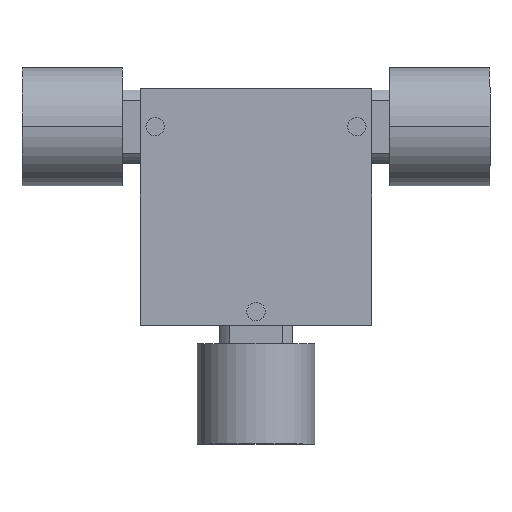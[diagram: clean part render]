
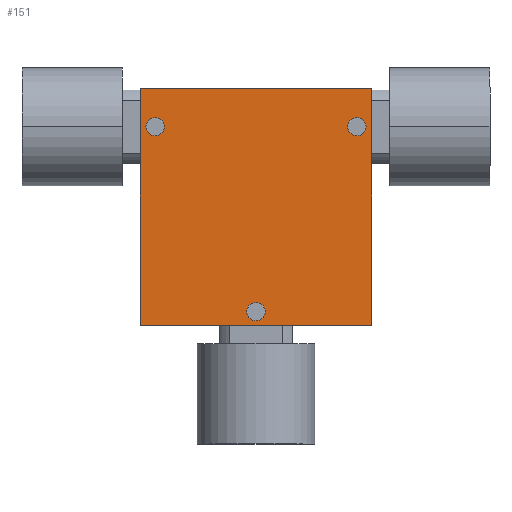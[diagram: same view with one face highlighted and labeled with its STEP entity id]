
A CAD part, top view. The second image highlights one B-rep face of the part: STEP entity #151.
In plain terms, the highlighted planar face has unit normal (0, 0, 1) as drawn and (0, 0, -1) by its records, which use the part's own axes.
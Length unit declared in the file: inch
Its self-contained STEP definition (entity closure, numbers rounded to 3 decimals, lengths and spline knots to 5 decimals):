
#16 = VERTEX_POINT ( 'NONE', #514 ) ;
#17 = VERTEX_POINT ( 'NONE', #1005 ) ;
#21 = ORIENTED_EDGE ( 'NONE', *, *, #179, .T. ) ;
#57 = DIRECTION ( 'NONE',  ( 1., 0., 0. ) ) ;
#65 = ORIENTED_EDGE ( 'NONE', *, *, #1913, .F. ) ;
#79 = ORIENTED_EDGE ( 'NONE', *, *, #643, .T. ) ;
#85 = DIRECTION ( 'NONE',  ( -1., 0., 0. ) ) ;
#104 = CIRCLE ( 'NONE', #1496, 0.0625 ) ;
#105 = DIRECTION ( 'NONE',  ( 1., 0., 0. ) ) ;
#112 = CARTESIAN_POINT ( 'NONE',  ( -0.79, -0.81, -0.365 ) ) ;
#144 = VERTEX_POINT ( 'NONE', #1074 ) ;
#149 = VERTEX_POINT ( 'NONE', #112 ) ;
#151 = ADVANCED_FACE ( 'NONE', ( #1302, #265, #463, #1322 ), #411, .F. ) ;
#178 = VECTOR ( 'NONE', #847, 39.37008 ) ;
#179 = EDGE_CURVE ( 'NONE', #16, #929, #744, .T. ) ;
#234 = AXIS2_PLACEMENT_3D ( 'NONE', #1637, #864, #856 ) ;
#237 = VERTEX_POINT ( 'NONE', #1549 ) ;
#262 = DIRECTION ( 'NONE',  ( 1., 0., 0. ) ) ;
#265 = FACE_BOUND ( 'NONE', #533, .T. ) ;
#347 = EDGE_CURVE ( 'NONE', #149, #17, #945, .T. ) ;
#351 = ORIENTED_EDGE ( 'NONE', *, *, #2015, .T. ) ;
#379 = LINE ( 'NONE', #1786, #1692 ) ;
#411 = PLANE ( 'NONE',  #901 ) ;
#423 = CARTESIAN_POINT ( 'NONE',  ( -0.69, 0.55, -0.365 ) ) ;
#429 = LINE ( 'NONE', #722, #1355 ) ;
#463 = FACE_BOUND ( 'NONE', #1219, .T. ) ;
#470 = LINE ( 'NONE', #1776, #178 ) ;
#514 = CARTESIAN_POINT ( 'NONE',  ( -0.6275, 0.55, -0.365 ) ) ;
#525 = AXIS2_PLACEMENT_3D ( 'NONE', #1035, #747, #105 ) ;
#533 = EDGE_LOOP ( 'NONE', ( #625, #79 ) ) ;
#538 = CARTESIAN_POINT ( 'NONE',  ( 0.69, 0.55, -0.365 ) ) ;
#575 = EDGE_CURVE ( 'NONE', #237, #1166, #1967, .T. ) ;
#625 = ORIENTED_EDGE ( 'NONE', *, *, #1145, .T. ) ;
#643 = EDGE_CURVE ( 'NONE', #1598, #144, #2033, .T. ) ;
#695 = DIRECTION ( 'NONE',  ( 0., 0., 1. ) ) ;
#722 = CARTESIAN_POINT ( 'NONE',  ( -0.79, 0.81, -0.365 ) ) ;
#744 = CIRCLE ( 'NONE', #1631, 0.0625 ) ;
#747 = DIRECTION ( 'NONE',  ( 0., 0., 1. ) ) ;
#758 = DIRECTION ( 'NONE',  ( 1., 0., 0. ) ) ;
#778 = VERTEX_POINT ( 'NONE', #967 ) ;
#798 = CARTESIAN_POINT ( 'NONE',  ( -0.0625, -0.715, -0.365 ) ) ;
#817 = ORIENTED_EDGE ( 'NONE', *, *, #347, .F. ) ;
#841 = ORIENTED_EDGE ( 'NONE', *, *, #2050, .F. ) ;
#847 = DIRECTION ( 'NONE',  ( 0., 1., 0. ) ) ;
#856 = DIRECTION ( 'NONE',  ( 1., 0., 0. ) ) ;
#864 = DIRECTION ( 'NONE',  ( 0., 0., 1. ) ) ;
#869 = CIRCLE ( 'NONE', #1403, 0.0625 ) ;
#901 = AXIS2_PLACEMENT_3D ( 'NONE', #1197, #903, #1220 ) ;
#903 = DIRECTION ( 'NONE',  ( 0., 0., 1. ) ) ;
#921 = CIRCLE ( 'NONE', #525, 0.0625 ) ;
#929 = VERTEX_POINT ( 'NONE', #1576 ) ;
#945 = LINE ( 'NONE', #1319, #1254 ) ;
#967 = CARTESIAN_POINT ( 'NONE',  ( -0.79, 0.81, -0.365 ) ) ;
#1005 = CARTESIAN_POINT ( 'NONE',  ( 0.79, -0.81, -0.365 ) ) ;
#1007 = EDGE_CURVE ( 'NONE', #1166, #237, #869, .T. ) ;
#1016 = DIRECTION ( 'NONE',  ( 1., 0., 0. ) ) ;
#1030 = AXIS2_PLACEMENT_3D ( 'NONE', #1423, #695, #57 ) ;
#1035 = CARTESIAN_POINT ( 'NONE',  ( 0., -0.715, -0.365 ) ) ;
#1074 = CARTESIAN_POINT ( 'NONE',  ( 0.0625, -0.715, -0.365 ) ) ;
#1109 = ORIENTED_EDGE ( 'NONE', *, *, #575, .T. ) ;
#1145 = EDGE_CURVE ( 'NONE', #144, #1598, #921, .T. ) ;
#1148 = EDGE_LOOP ( 'NONE', ( #1109, #1643 ) ) ;
#1166 = VERTEX_POINT ( 'NONE', #1995 ) ;
#1169 = ORIENTED_EDGE ( 'NONE', *, *, #1777, .F. ) ;
#1197 = CARTESIAN_POINT ( 'NONE',  ( 0., 0., -0.365 ) ) ;
#1219 = EDGE_LOOP ( 'NONE', ( #21, #351 ) ) ;
#1220 = DIRECTION ( 'NONE',  ( 1., 0., 0. ) ) ;
#1254 = VECTOR ( 'NONE', #1338, 39.37008 ) ;
#1297 = EDGE_LOOP ( 'NONE', ( #1169, #817, #65, #841 ) ) ;
#1302 = FACE_BOUND ( 'NONE', #1148, .T. ) ;
#1319 = CARTESIAN_POINT ( 'NONE',  ( -0.79, -0.81, -0.365 ) ) ;
#1322 = FACE_OUTER_BOUND ( 'NONE', #1297, .T. ) ;
#1328 = DIRECTION ( 'NONE',  ( 0., -1., 0. ) ) ;
#1338 = DIRECTION ( 'NONE',  ( 1., 0., 0. ) ) ;
#1341 = VERTEX_POINT ( 'NONE', #1395 ) ;
#1347 = DIRECTION ( 'NONE',  ( 0., 0., 1. ) ) ;
#1355 = VECTOR ( 'NONE', #85, 39.37008 ) ;
#1360 = DIRECTION ( 'NONE',  ( 0., 0., 1. ) ) ;
#1395 = CARTESIAN_POINT ( 'NONE',  ( 0.79, 0.81, -0.365 ) ) ;
#1403 = AXIS2_PLACEMENT_3D ( 'NONE', #538, #1803, #1016 ) ;
#1423 = CARTESIAN_POINT ( 'NONE',  ( 0.69, 0.55, -0.365 ) ) ;
#1496 = AXIS2_PLACEMENT_3D ( 'NONE', #1684, #1347, #262 ) ;
#1549 = CARTESIAN_POINT ( 'NONE',  ( 0.7525, 0.55, -0.365 ) ) ;
#1576 = CARTESIAN_POINT ( 'NONE',  ( -0.7525, 0.55, -0.365 ) ) ;
#1598 = VERTEX_POINT ( 'NONE', #798 ) ;
#1631 = AXIS2_PLACEMENT_3D ( 'NONE', #423, #1360, #758 ) ;
#1637 = CARTESIAN_POINT ( 'NONE',  ( 0., -0.715, -0.365 ) ) ;
#1643 = ORIENTED_EDGE ( 'NONE', *, *, #1007, .T. ) ;
#1684 = CARTESIAN_POINT ( 'NONE',  ( -0.69, 0.55, -0.365 ) ) ;
#1692 = VECTOR ( 'NONE', #1328, 39.37008 ) ;
#1776 = CARTESIAN_POINT ( 'NONE',  ( 0.79, 0.81, -0.365 ) ) ;
#1777 = EDGE_CURVE ( 'NONE', #17, #1341, #470, .T. ) ;
#1786 = CARTESIAN_POINT ( 'NONE',  ( -0.79, 0.81, -0.365 ) ) ;
#1803 = DIRECTION ( 'NONE',  ( 0., 0., 1. ) ) ;
#1913 = EDGE_CURVE ( 'NONE', #778, #149, #379, .T. ) ;
#1967 = CIRCLE ( 'NONE', #1030, 0.0625 ) ;
#1995 = CARTESIAN_POINT ( 'NONE',  ( 0.6275, 0.55, -0.365 ) ) ;
#2015 = EDGE_CURVE ( 'NONE', #929, #16, #104, .T. ) ;
#2033 = CIRCLE ( 'NONE', #234, 0.0625 ) ;
#2050 = EDGE_CURVE ( 'NONE', #1341, #778, #429, .T. ) ;
